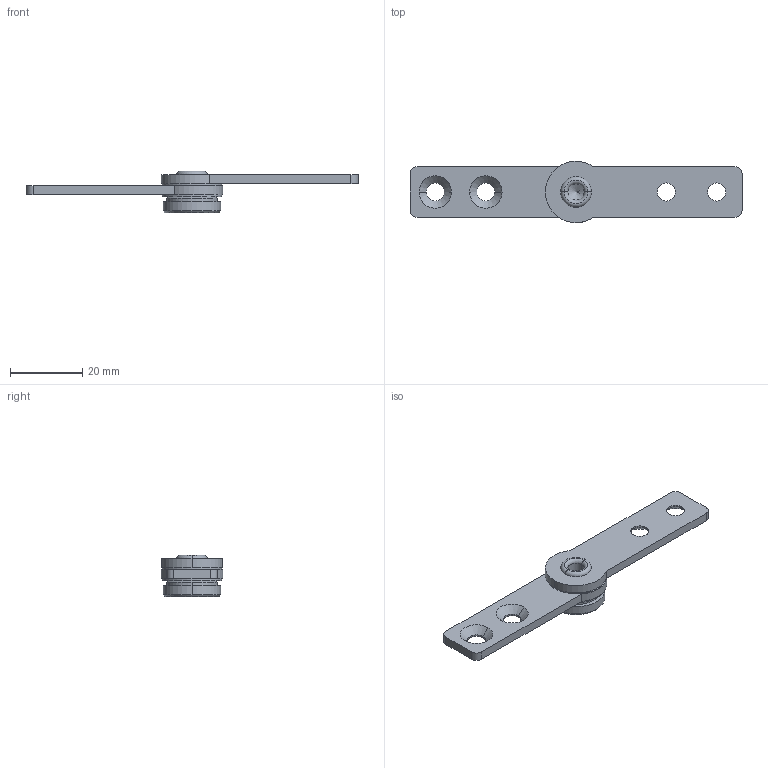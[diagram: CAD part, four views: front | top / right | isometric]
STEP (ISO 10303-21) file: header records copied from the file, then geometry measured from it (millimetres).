
FILE_DESCRIPTION (( 'STEP AP203' ), '1' );
FILE_NAME ('XG11-030-2.STEP', '2023-12-04T08:41:18', ( '' ), ( '' ), 'SwSTEP 2.0', 'SolidWorks 2020', '' );
FILE_SCHEMA (( 'CONFIG_CONTROL_DESIGN' ));
Length unit declared in the file: millimetre
Products named in the file (1): XG11-030-2
Bounding box: 92 x 16.96 x 11.5 mm (x, y, z)
Volume: 4487.1 mm3; surface area: 5354.3 mm2
Topology: 6 solids, 6 shells, 74 faces, 166 edges, 103 vertices
Faces by surface type: cylinder 38, plane 18, cone 14, torus 4
Entity records: 2173 total; most frequent: DIRECTION 408, CARTESIAN_POINT 342, ORIENTED_EDGE 328, AXIS2_PLACEMENT_3D 169, EDGE_CURVE 164, VERTEX_POINT 103, CIRCLE 94, EDGE_LOOP 93
